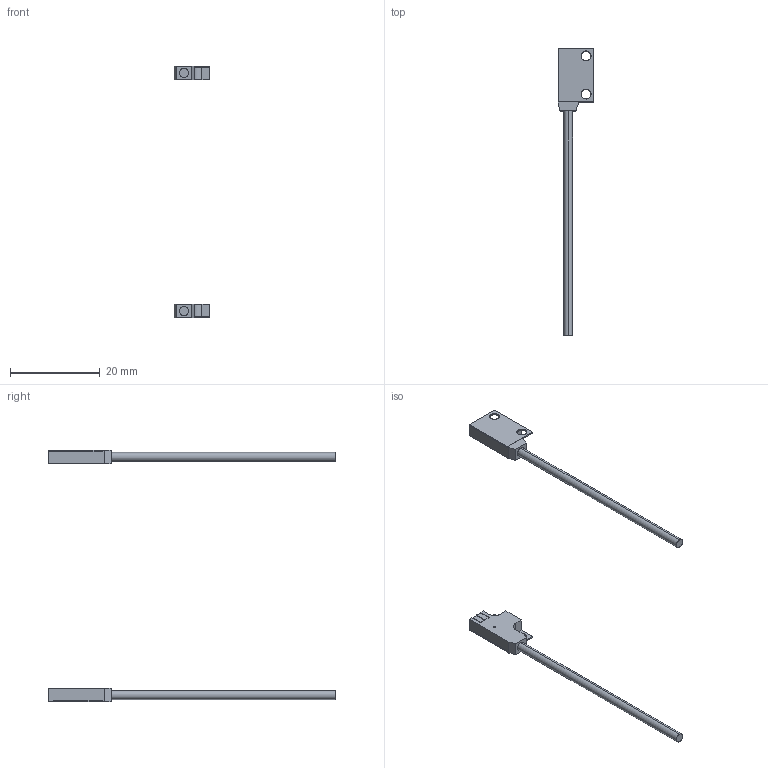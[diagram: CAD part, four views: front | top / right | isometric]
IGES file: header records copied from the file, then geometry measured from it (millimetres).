
Start section: SolidWorks IGES file using analytic representation for surfaces
Global section: file name: C:\catalog\ex-z11fa.IGS; native system: SolidWorks 2010; preprocessor: SolidWorks 2010; author: hi1633; date: 150617.134907; units: millimetre
Bounding box: 8 x 64 x 56 mm (x, y, z)
Surface area: 1563.7 mm2 (no closed solid volume)
Topology: 0 solids, 0 shells, 89 faces, 934 edges, 934 vertices
Faces by surface type: bspline 69, revolution 20
